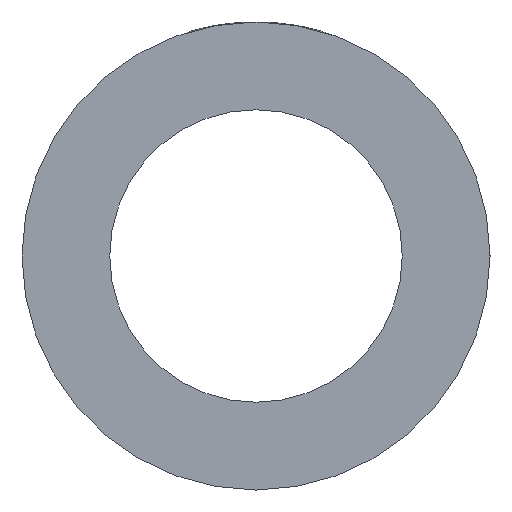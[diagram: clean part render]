
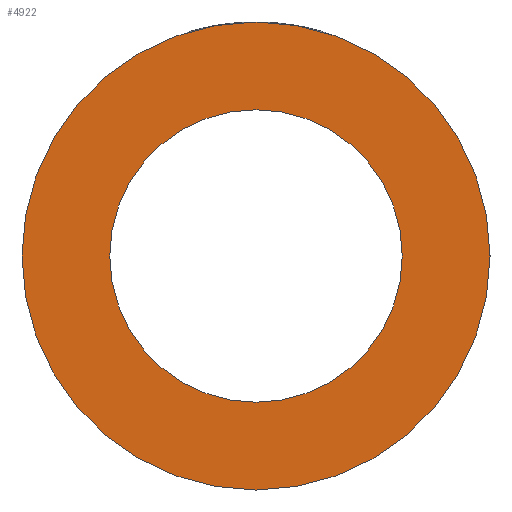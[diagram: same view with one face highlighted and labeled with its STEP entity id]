
A CAD part, left-side view. The second image highlights one B-rep face of the part: STEP entity #4922.
In plain terms, the highlighted planar face has unit normal (-1, 0, 0).
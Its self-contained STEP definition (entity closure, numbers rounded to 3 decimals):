
#116=PLANE('',#5303);
#336=CIRCLE('',#5302,40.);
#337=CIRCLE('',#5304,25.);
#1457=ORIENTED_EDGE('',*,*,#2941,.T.);
#1458=ORIENTED_EDGE('',*,*,#2940,.F.);
#2940=EDGE_CURVE('',#3682,#3682,#336,.T.);
#2941=EDGE_CURVE('',#3683,#3683,#337,.T.);
#3682=VERTEX_POINT('',#7856);
#3683=VERTEX_POINT('',#7859);
#4188=EDGE_LOOP('',(#1457));
#4189=EDGE_LOOP('',(#1458));
#4549=FACE_BOUND('',#4188,.T.);
#4550=FACE_BOUND('',#4189,.T.);
#4922=ADVANCED_FACE('',(#4549,#4550),#116,.F.);
#5302=AXIS2_PLACEMENT_3D('',#7855,#5799,#5800);
#5303=AXIS2_PLACEMENT_3D('',#7857,#5801,#5802);
#5304=AXIS2_PLACEMENT_3D('',#7858,#5803,#5804);
#5799=DIRECTION('',(1.,0.,0.));
#5800=DIRECTION('',(0.,0.,-1.));
#5801=DIRECTION('',(1.,0.,0.));
#5802=DIRECTION('',(0.,0.,-1.));
#5803=DIRECTION('',(1.,0.,0.));
#5804=DIRECTION('',(0.,0.,-1.));
#7855=CARTESIAN_POINT('',(-50.,0.,0.));
#7856=CARTESIAN_POINT('',(-50.,0.,-40.));
#7857=CARTESIAN_POINT('',(-50.,0.,0.));
#7858=CARTESIAN_POINT('',(-50.,0.,0.));
#7859=CARTESIAN_POINT('',(-50.,0.,-25.));
